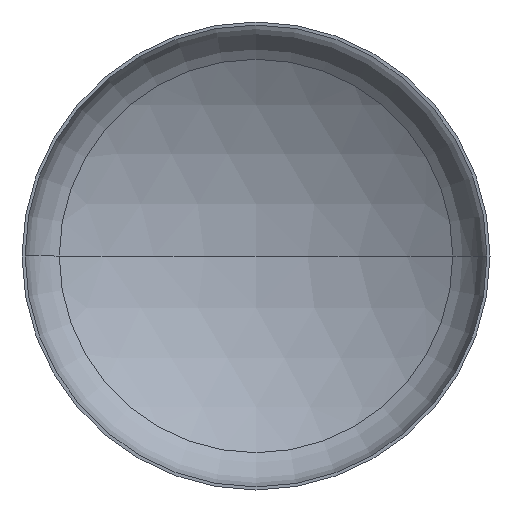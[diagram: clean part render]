
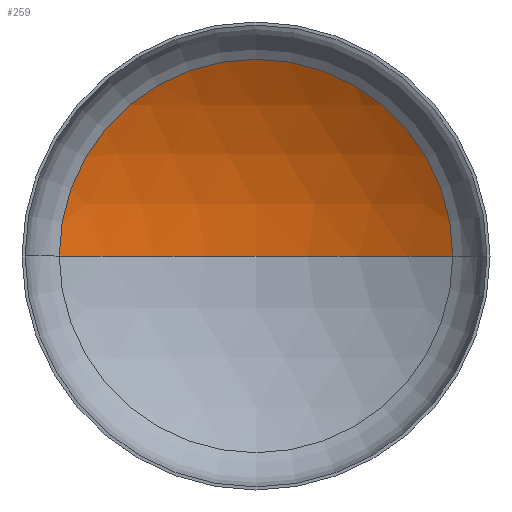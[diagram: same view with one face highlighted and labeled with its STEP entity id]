
A CAD part, front view. The second image highlights one B-rep face of the part: STEP entity #259.
In plain terms, the highlighted spherical face has radius 3040 mm.
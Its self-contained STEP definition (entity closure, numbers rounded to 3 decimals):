
#10 = EDGE_LOOP ( 'NONE', ( #26, #146, #94 ) ) ;
#12 = VERTEX_POINT ( 'NONE', #290 ) ;
#26 = ORIENTED_EDGE ( 'NONE', *, *, #210, .F. ) ;
#29 = VERTEX_POINT ( 'NONE', #295 ) ;
#68 = FACE_OUTER_BOUND ( 'NONE', #10, .T. ) ;
#84 = VERTEX_POINT ( 'NONE', #274 ) ;
#94 = ORIENTED_EDGE ( 'NONE', *, *, #205, .T. ) ;
#103 = CIRCLE ( 'NONE', #125, 3040. ) ;
#108 = AXIS2_PLACEMENT_3D ( 'NONE', #181, #254, #404 ) ;
#116 = CIRCLE ( 'NONE', #129, 1597.393 ) ;
#125 = AXIS2_PLACEMENT_3D ( 'NONE', #224, #273, #255 ) ;
#126 = AXIS2_PLACEMENT_3D ( 'NONE', #185, #200, #202 ) ;
#129 = AXIS2_PLACEMENT_3D ( 'NONE', #372, #322, #137 ) ;
#137 = DIRECTION ( 'NONE',  ( 1., 0., 0. ) ) ;
#146 = ORIENTED_EDGE ( 'NONE', *, *, #208, .T. ) ;
#181 = CARTESIAN_POINT ( 'NONE',  ( 0., -2013.762, 0. ) ) ;
#184 = SPHERICAL_SURFACE ( 'NONE', #108, 3040. ) ;
#185 = CARTESIAN_POINT ( 'NONE',  ( 0., -2013.762, 0. ) ) ;
#200 = DIRECTION ( 'NONE',  ( 0., 0., -1. ) ) ;
#202 = DIRECTION ( 'NONE',  ( -1., 0., 0. ) ) ;
#205 = EDGE_CURVE ( 'NONE', #84, #12, #116, .T. ) ;
#208 = EDGE_CURVE ( 'NONE', #29, #84, #267, .T. ) ;
#210 = EDGE_CURVE ( 'NONE', #29, #12, #103, .T. ) ;
#224 = CARTESIAN_POINT ( 'NONE',  ( 0., -2013.762, 0. ) ) ;
#254 = DIRECTION ( 'NONE',  ( 0., 0., -1. ) ) ;
#255 = DIRECTION ( 'NONE',  ( 1., 0., 0. ) ) ;
#259 = ADVANCED_FACE ( 'NONE', ( #68 ), #184, .F. ) ;
#267 = CIRCLE ( 'NONE', #126, 3040. ) ;
#273 = DIRECTION ( 'NONE',  ( 0., 0., 1. ) ) ;
#274 = CARTESIAN_POINT ( 'NONE',  ( 1597.393, 572.729, 0. ) ) ;
#290 = CARTESIAN_POINT ( 'NONE',  ( -1597.393, 572.729, 0. ) ) ;
#295 = CARTESIAN_POINT ( 'NONE',  ( 0., 1026.238, 0. ) ) ;
#322 = DIRECTION ( 'NONE',  ( 0., -1., 0. ) ) ;
#372 = CARTESIAN_POINT ( 'NONE',  ( 0., 572.729, 0. ) ) ;
#404 = DIRECTION ( 'NONE',  ( -1., 0., 0. ) ) ;
